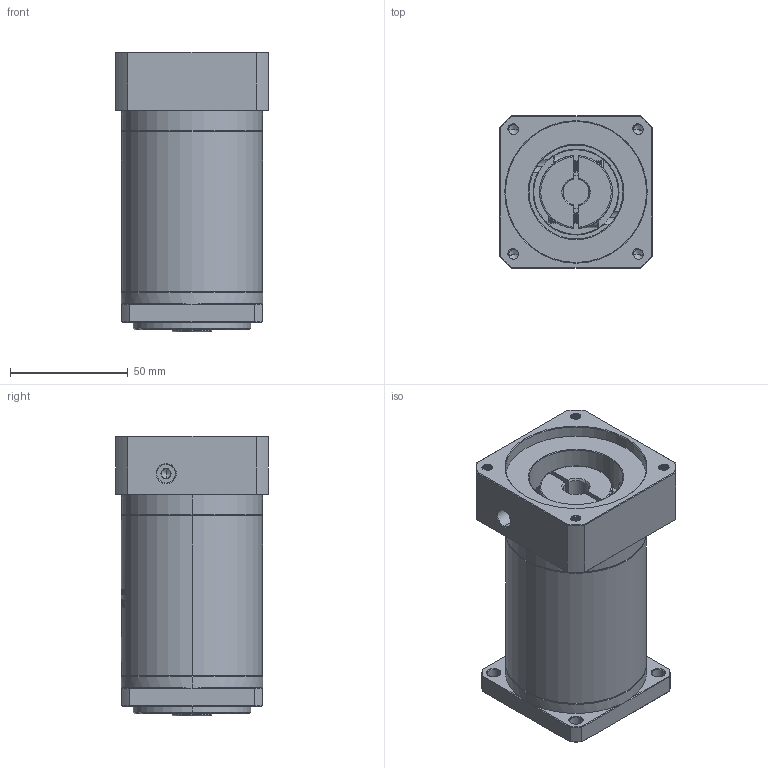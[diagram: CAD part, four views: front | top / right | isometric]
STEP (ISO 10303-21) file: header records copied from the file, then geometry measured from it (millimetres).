
FILE_DESCRIPTION (( 'STEP AP214' ), '1' );
FILE_NAME ('ZF060-K10-L3-P2-11-60-75-M5.step', '2023-08-16T04:32:21', ( '' ), ( '' ), 'SwSTEP 2.0', 'SolidWorks 2016', '' );
FILE_SCHEMA (( 'AUTOMOTIVE_DESIGN' ));
Length unit declared in the file: millimetre
Products named in the file (1): ZF060-K10-L3-P2-11-60-75-M5
Bounding box: 65 x 65 x 119 mm (x, y, z)
Volume: 326329.7 mm3; surface area: 52206.5 mm2
Topology: 6 solids, 6 shells, 1706 faces, 4622 edges, 2999 vertices
Faces by surface type: plane 792, bspline 347, cylinder 321, cone 228, torus 18
Entity records: 95258 total; most frequent: CARTESIAN_POINT 37524, ORIENTED_EDGE 9220, DIRECTION 6640, EDGE_CURVE 4610, VERTEX_POINT 2999, LINE 2376, VECTOR 2376, AXIS2_PLACEMENT_3D 2132
